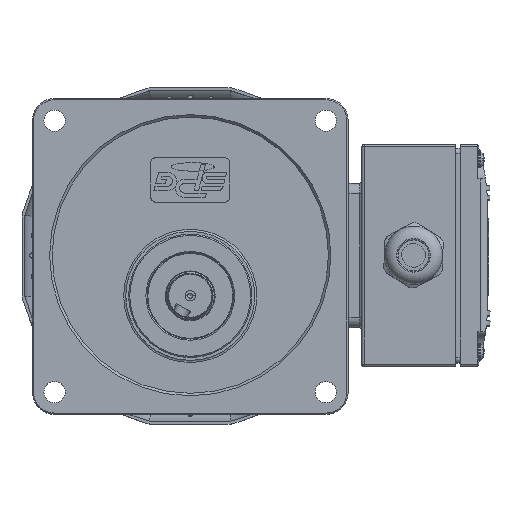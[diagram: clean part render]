
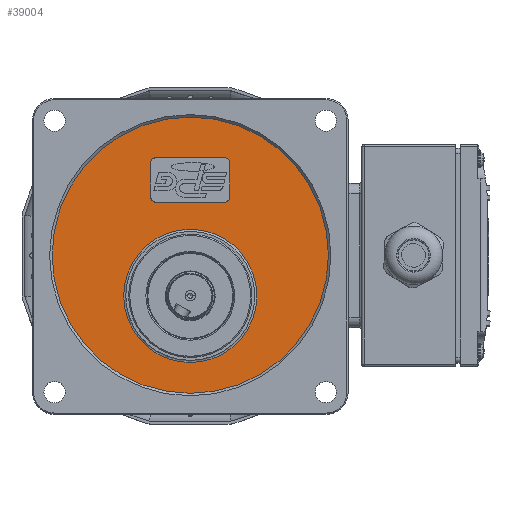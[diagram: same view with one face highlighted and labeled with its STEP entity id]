
A CAD part, top view. The second image highlights one B-rep face of the part: STEP entity #39004.
In plain terms, the highlighted planar face has unit normal (0, 0, 1).
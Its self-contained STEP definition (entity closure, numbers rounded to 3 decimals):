
#675=FACE_BOUND('',#5451,.T.);
#676=FACE_BOUND('',#5452,.T.);
#1325=PLANE('',#42649);
#3122=FACE_OUTER_BOUND('',#5450,.T.);
#5450=EDGE_LOOP('',(#29998));
#5451=EDGE_LOOP('',(#29999));
#5452=EDGE_LOOP('',(#30000,#30001,#30002,#30003,#30004,#30005,#30006,#30007));
#7919=CIRCLE('',#42648,56.);
#7920=CIRCLE('',#42650,27.);
#7921=CIRCLE('',#42651,2.);
#7922=CIRCLE('',#42652,2.);
#7923=CIRCLE('',#42653,2.);
#7924=CIRCLE('',#42654,2.);
#10441=LINE('',#65558,#12827);
#10442=LINE('',#65562,#12828);
#10443=LINE('',#65566,#12829);
#10444=LINE('',#65570,#12830);
#12827=VECTOR('',#51106,14.);
#12828=VECTOR('',#51109,28.);
#12829=VECTOR('',#51112,14.);
#12830=VECTOR('',#51115,28.);
#16623=VERTEX_POINT('',#65550);
#16624=VERTEX_POINT('',#65554);
#16625=VERTEX_POINT('',#65556);
#16626=VERTEX_POINT('',#65557);
#16627=VERTEX_POINT('',#65559);
#16628=VERTEX_POINT('',#65561);
#16629=VERTEX_POINT('',#65563);
#16630=VERTEX_POINT('',#65565);
#16631=VERTEX_POINT('',#65567);
#16632=VERTEX_POINT('',#65569);
#21321=EDGE_CURVE('',#16623,#16623,#7919,.T.);
#21323=EDGE_CURVE('',#16624,#16624,#7920,.T.);
#21324=EDGE_CURVE('',#16625,#16626,#10441,.T.);
#21325=EDGE_CURVE('',#16627,#16626,#7921,.T.);
#21326=EDGE_CURVE('',#16627,#16628,#10442,.T.);
#21327=EDGE_CURVE('',#16629,#16628,#7922,.T.);
#21328=EDGE_CURVE('',#16629,#16630,#10443,.T.);
#21329=EDGE_CURVE('',#16631,#16630,#7923,.T.);
#21330=EDGE_CURVE('',#16631,#16632,#10444,.T.);
#21331=EDGE_CURVE('',#16625,#16632,#7924,.T.);
#29998=ORIENTED_EDGE('',*,*,#21321,.F.);
#29999=ORIENTED_EDGE('',*,*,#21323,.F.);
#30000=ORIENTED_EDGE('',*,*,#21324,.T.);
#30001=ORIENTED_EDGE('',*,*,#21325,.F.);
#30002=ORIENTED_EDGE('',*,*,#21326,.T.);
#30003=ORIENTED_EDGE('',*,*,#21327,.F.);
#30004=ORIENTED_EDGE('',*,*,#21328,.T.);
#30005=ORIENTED_EDGE('',*,*,#21329,.F.);
#30006=ORIENTED_EDGE('',*,*,#21330,.T.);
#30007=ORIENTED_EDGE('',*,*,#21331,.F.);
#39004=ADVANCED_FACE('',(#3122,#675,#676),#1325,.F.);
#42648=AXIS2_PLACEMENT_3D('',#65551,#51099,#51100);
#42649=AXIS2_PLACEMENT_3D('',#65553,#51102,#51103);
#42650=AXIS2_PLACEMENT_3D('',#65555,#51104,#51105);
#42651=AXIS2_PLACEMENT_3D('',#65560,#51107,#51108);
#42652=AXIS2_PLACEMENT_3D('',#65564,#51110,#51111);
#42653=AXIS2_PLACEMENT_3D('',#65568,#51113,#51114);
#42654=AXIS2_PLACEMENT_3D('',#65571,#51116,#51117);
#51099=DIRECTION('center_axis',(0.,0.,
-1.));
#51100=DIRECTION('ref_axis',(-1.,0.,0.));
#51102=DIRECTION('center_axis',(0.,0.,
-1.));
#51103=DIRECTION('ref_axis',(1.,0.,0.));
#51104=DIRECTION('center_axis',(0.,0.,
1.));
#51105=DIRECTION('ref_axis',(1.,0.,0.));
#51106=DIRECTION('',(0.,-1.,0.));
#51107=DIRECTION('center_axis',(0.,0.,
1.));
#51108=DIRECTION('ref_axis',(0.707,-0.707,0.));
#51109=DIRECTION('',(-1.,0.,0.));
#51110=DIRECTION('center_axis',(0.,0.,
1.));
#51111=DIRECTION('ref_axis',(-0.707,-0.707,0.));
#51112=DIRECTION('',(0.,1.,0.));
#51113=DIRECTION('center_axis',(0.,0.,
1.));
#51114=DIRECTION('ref_axis',(-0.707,0.707,0.));
#51115=DIRECTION('',(1.,0.,0.));
#51116=DIRECTION('center_axis',(0.,0.,
1.));
#51117=DIRECTION('ref_axis',(0.707,0.707,0.));
#65550=CARTESIAN_POINT('',(5.05,15.023,249.547));
#65551=CARTESIAN_POINT('Origin',(-50.95,15.023,249.547));
#65553=CARTESIAN_POINT('Origin',(-50.95,15.023,249.547));
#65554=CARTESIAN_POINT('',(-77.95,-1.477,249.547));
#65555=CARTESIAN_POINT('Origin',(-50.95,-1.477,249.547));
#65556=CARTESIAN_POINT('',(-34.95,52.523,249.547));
#65557=CARTESIAN_POINT('',(-34.95,38.523,249.547));
#65558=CARTESIAN_POINT('',(-34.95,52.523,249.547));
#65559=CARTESIAN_POINT('',(-36.95,36.523,249.547));
#65560=CARTESIAN_POINT('Origin',(-36.95,38.523,249.547));
#65561=CARTESIAN_POINT('',(-64.95,36.523,249.547));
#65562=CARTESIAN_POINT('',(-36.95,36.523,249.547));
#65563=CARTESIAN_POINT('',(-66.95,38.523,249.547));
#65564=CARTESIAN_POINT('Origin',(-64.95,38.523,249.547));
#65565=CARTESIAN_POINT('',(-66.95,52.523,249.547));
#65566=CARTESIAN_POINT('',(-66.95,38.523,249.547));
#65567=CARTESIAN_POINT('',(-64.95,54.523,249.547));
#65568=CARTESIAN_POINT('Origin',(-64.95,52.523,249.547));
#65569=CARTESIAN_POINT('',(-36.95,54.523,249.547));
#65570=CARTESIAN_POINT('',(-64.95,54.523,249.547));
#65571=CARTESIAN_POINT('Origin',(-36.95,52.523,249.547));
